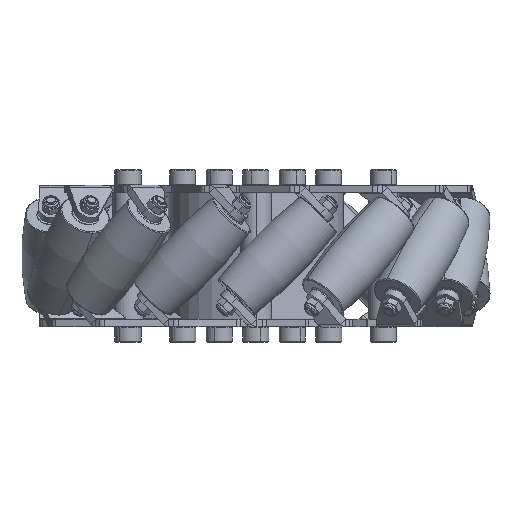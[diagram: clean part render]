
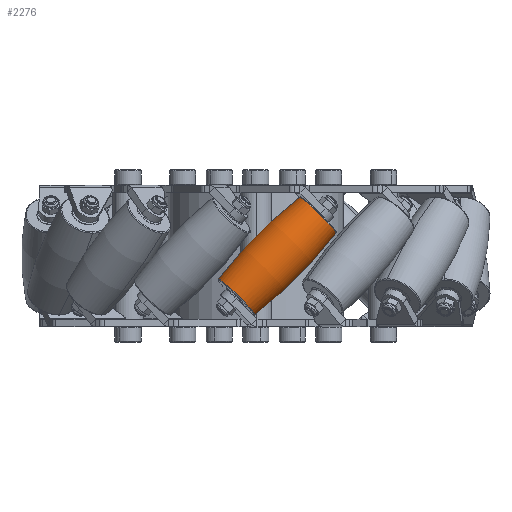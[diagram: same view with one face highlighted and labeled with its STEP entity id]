
A CAD part, left-side view. The second image highlights one B-rep face of the part: STEP entity #2276.
In plain terms, the highlighted toroidal (fillet/blend) face has major radius 137.5 mm and minor radius 147 mm.
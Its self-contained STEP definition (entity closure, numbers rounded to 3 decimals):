
#402 = DIRECTION ( 'NONE',  ( 0.707, 0., 0.707 ) ) ;
#1007 = EDGE_CURVE ( 'NONE', #10008, #2751, #5606, .T. ) ;
#2276 = ADVANCED_FACE ( 'NONE', ( #10604 ), #4325, .T. ) ;
#2751 = VERTEX_POINT ( 'NONE', #12314 ) ;
#3027 = DIRECTION ( 'NONE',  ( -0.707, 0., 0.707 ) ) ;
#3280 = AXIS2_PLACEMENT_3D ( 'NONE', #13006, #5891, #14218 ) ;
#3351 = CIRCLE ( 'NONE', #6000, 147. ) ;
#3457 = DIRECTION ( 'NONE',  ( 0.707, 0., -0.707 ) ) ;
#4024 = DIRECTION ( 'NONE',  ( -0.707, 0., 0.707 ) ) ;
#4325 = TOROIDAL_SURFACE ( 'NONE', #11534, -137.5, 147. ) ;
#4830 = ORIENTED_EDGE ( 'NONE', *, *, #12595, .T. ) ;
#4857 = CARTESIAN_POINT ( 'NONE',  ( 0., 66.7, 0. ) ) ;
#4879 = EDGE_LOOP ( 'NONE', ( #4830, #9039, #9770, #4980 ) ) ;
#4980 = ORIENTED_EDGE ( 'NONE', *, *, #15219, .F. ) ;
#5392 = DIRECTION ( 'NONE',  ( 0., -1., 0. ) ) ;
#5606 = CIRCLE ( 'NONE', #3280, 147. ) ;
#5891 = DIRECTION ( 'NONE',  ( 0., 1., 0. ) ) ;
#6000 = AXIS2_PLACEMENT_3D ( 'NONE', #12489, #5392, #13712 ) ;
#6204 = EDGE_CURVE ( 'NONE', #2751, #11921, #9701, .T. ) ;
#7073 = CIRCLE ( 'NONE', #7182, 8.294 ) ;
#7182 = AXIS2_PLACEMENT_3D ( 'NONE', #10145, #3027, #11328 ) ;
#9039 = ORIENTED_EDGE ( 'NONE', *, *, #1007, .T. ) ;
#9518 = CARTESIAN_POINT ( 'NONE',  ( 19.15, 66.7, -7.42 ) ) ;
#9701 = CIRCLE ( 'NONE', #10692, 8.294 ) ;
#9770 = ORIENTED_EDGE ( 'NONE', *, *, #6204, .T. ) ;
#10008 = VERTEX_POINT ( 'NONE', #10017 ) ;
#10017 = CARTESIAN_POINT ( 'NONE',  ( 7.42, 66.7, -19.15 ) ) ;
#10145 = CARTESIAN_POINT ( 'NONE',  ( 13.285, 66.7, -13.285 ) ) ;
#10574 = CARTESIAN_POINT ( 'NONE',  ( -13.285, 66.7, 13.285 ) ) ;
#10604 = FACE_OUTER_BOUND ( 'NONE', #4879, .T. ) ;
#10692 = AXIS2_PLACEMENT_3D ( 'NONE', #10574, #3457, #11758 ) ;
#11328 = DIRECTION ( 'NONE',  ( 0.707, 0., 0.707 ) ) ;
#11534 = AXIS2_PLACEMENT_3D ( 'NONE', #4857, #4024, #402 ) ;
#11758 = DIRECTION ( 'NONE',  ( -0.707, 0., -0.707 ) ) ;
#11921 = VERTEX_POINT ( 'NONE', #12068 ) ;
#12068 = CARTESIAN_POINT ( 'NONE',  ( -7.42, 66.7, 19.15 ) ) ;
#12314 = CARTESIAN_POINT ( 'NONE',  ( -19.15, 66.7, 7.42 ) ) ;
#12489 = CARTESIAN_POINT ( 'NONE',  ( -97.227, 66.7, -97.227 ) ) ;
#12595 = EDGE_CURVE ( 'NONE', #14408, #10008, #7073, .T. ) ;
#13006 = CARTESIAN_POINT ( 'NONE',  ( 97.227, 66.7, 97.227 ) ) ;
#13712 = DIRECTION ( 'NONE',  ( 0., 0., -1. ) ) ;
#14218 = DIRECTION ( 'NONE',  ( 0., 0., 1. ) ) ;
#14408 = VERTEX_POINT ( 'NONE', #9518 ) ;
#15219 = EDGE_CURVE ( 'NONE', #14408, #11921, #3351, .T. ) ;
